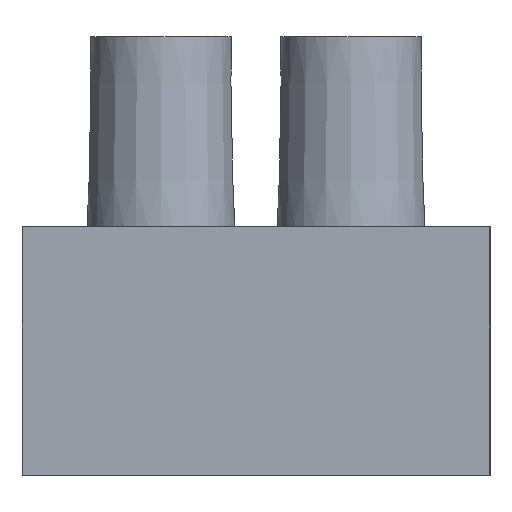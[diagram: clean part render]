
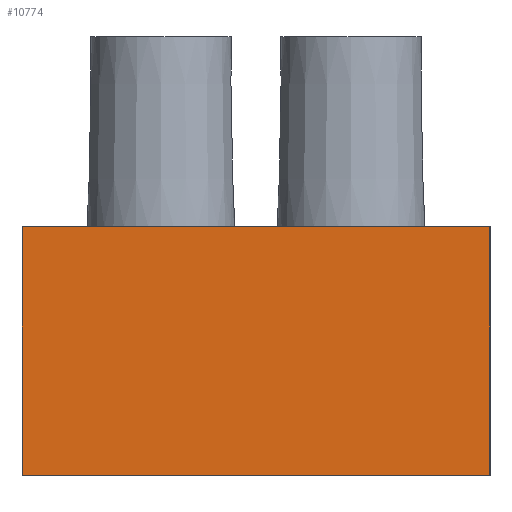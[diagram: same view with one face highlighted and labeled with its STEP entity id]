
A CAD part, left-side view. The second image highlights one B-rep face of the part: STEP entity #10774.
In plain terms, the highlighted planar face has unit normal (-1, 0, 0).
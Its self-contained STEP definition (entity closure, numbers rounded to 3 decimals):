
#1004=ORIENTED_EDGE('',*,*,#3863,.T.);
#1005=ORIENTED_EDGE('',*,*,#3450,.F.);
#1006=ORIENTED_EDGE('',*,*,#3877,.F.);
#1007=ORIENTED_EDGE('',*,*,#3871,.T.);
#3450=EDGE_CURVE('',#4973,#4974,#5999,.T.);
#3863=EDGE_CURVE('',#5302,#4974,#6379,.T.);
#3871=EDGE_CURVE('',#5307,#5302,#6387,.T.);
#3877=EDGE_CURVE('',#5307,#4973,#6393,.T.);
#4973=VERTEX_POINT('',#15312);
#4974=VERTEX_POINT('',#15314);
#5302=VERTEX_POINT('',#16153);
#5307=VERTEX_POINT('',#16167);
#5999=LINE('',#15313,#7275);
#6379=LINE('',#16152,#7655);
#6387=LINE('',#16166,#7663);
#6393=LINE('',#16178,#7669);
#7275=VECTOR('',#12266,1000.);
#7655=VECTOR('',#12908,1000.);
#7663=VECTOR('',#12918,1000.);
#7669=VECTOR('',#12926,1000.);
#8663=EDGE_LOOP('',(#1004,#1005,#1006,#1007));
#9471=FACE_BOUND('',#8663,.T.);
#10221=PLANE('',#11463);
#10774=ADVANCED_FACE('',(#9471),#10221,.F.);
#11463=AXIS2_PLACEMENT_3D('',#16177,#12924,#12925);
#12266=DIRECTION('',(0.,-1.,0.));
#12908=DIRECTION('',(0.,0.,1.));
#12918=DIRECTION('',(0.,-1.,0.));
#12924=DIRECTION('',(1.,0.,0.));
#12925=DIRECTION('',(0.,0.,-1.));
#12926=DIRECTION('',(0.,0.,1.));
#15312=CARTESIAN_POINT('',(-3.,16.,4.25));
#15313=CARTESIAN_POINT('',(-3.,16.,4.25));
#15314=CARTESIAN_POINT('',(-3.,0.,4.25));
#16152=CARTESIAN_POINT('',(-3.,0.,-4.25));
#16153=CARTESIAN_POINT('',(-3.,0.,-4.25));
#16166=CARTESIAN_POINT('',(-3.,16.,-4.25));
#16167=CARTESIAN_POINT('',(-3.,16.,-4.25));
#16177=CARTESIAN_POINT('',(-3.,16.,-4.25));
#16178=CARTESIAN_POINT('',(-3.,16.,-4.25));
